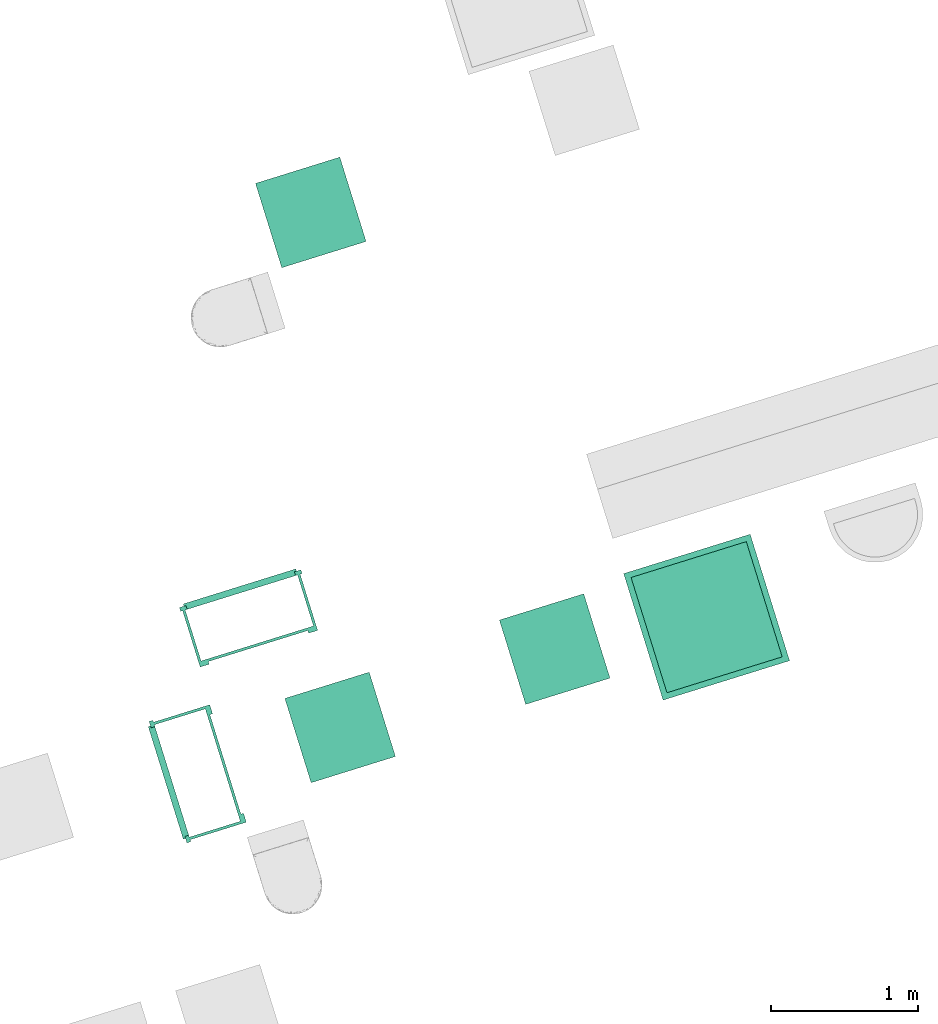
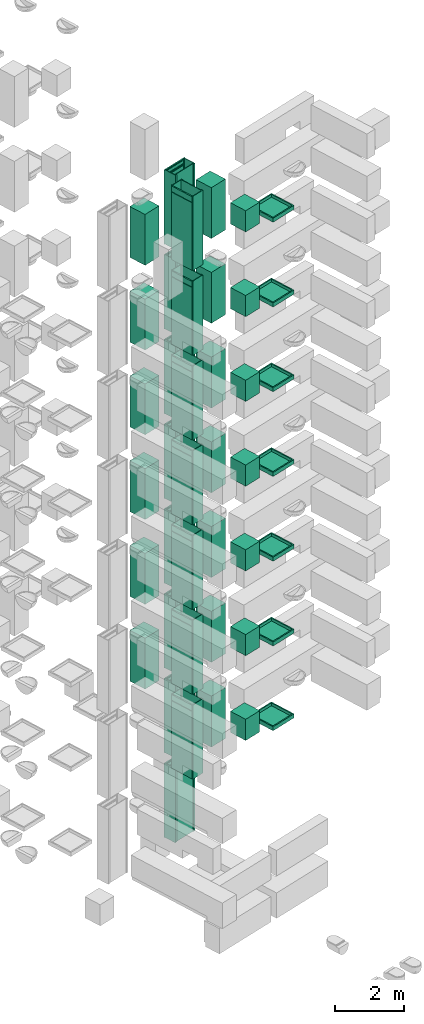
# Not in any storey, part 2 of 17: 15 distribution chamber elements, 13 boilers, 7 electric appliances, 7 sanitary terminals.
"""IFC4 model written with IfcOpenShell, lengths in metres."""

from ifc_helpers import new_model, entity, si_unit, converted_unit, direction, frame, origin, place, context, subcontext, project, indexed_curve, outline, extrude, polygons, source, transform, mapped, material, type_object, type_shapes, element, save


model = new_model("IFC4")

# Units and contexts
model_context = context("Model", 3, precision=1e-05, world=origin(), true_north=direction((6.12323399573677e-17, 1.0)))
body_context = subcontext(model_context, "Body", "Model", "MODEL_VIEW")
ifc_project = project(units=[si_unit("LENGTHUNIT", "METRE"), si_unit("AREAUNIT", "SQUARE_METRE"), converted_unit("PLANEANGLEUNIT", "DEGREE", entity("IfcPlaneAngleMeasure", 0.0174532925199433), si_unit("PLANEANGLEUNIT", "RADIAN"), dimensions=[0, 0, 0, 0, 0, 0, 0]), si_unit("VOLUMEUNIT", "CUBIC_METRE")], contexts=[model_context])

# Distribution chamber elements
ifc_material = material(Name="<Unnamed>")
distribution_chamber_element_type_1 = type_object("IfcDistributionChamberElementType", Name="NLRS_61_GM_UN_Jonka meterkast_gen:Jonka_kast", PredefinedType="METERCHAMBER", material=ifc_material)
shared_shape_1 = source(origin(), body_context, "Body", "SweptSolid", [
    extrude(outline(indexed_curve([(-0.0230000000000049, -0.00925000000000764), (-0.00900000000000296, -0.00925000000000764), (-0.00900000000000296, 0.000749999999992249), (0.00899999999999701, 0.000749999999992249), (0.00899999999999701, -0.00925000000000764), (0.023000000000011, -0.00925000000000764), (0.023000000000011, 0.0177500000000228), (-0.0230000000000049, 0.0177500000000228), (-0.0230000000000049, -0.00925000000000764)], self_intersect=False)), frame((-0.408999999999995, 0.409249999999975, 0.0)), (0.0, 0.0, 1.0), 2.63),
    extrude(outline(indexed_curve([(-0.0230000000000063, -0.00925000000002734), (-0.00900000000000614, -0.00925000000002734), (-0.00900000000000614, 0.00074999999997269), (0.00900000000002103, 0.00074999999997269), (0.00900000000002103, -0.00925000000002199), (0.0229999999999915, -0.00925000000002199), (0.0229999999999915, 0.0177500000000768), (-0.0230000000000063, 0.0177500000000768), (-0.0230000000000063, -0.00925000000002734)], self_intersect=False)), frame((0.409000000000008, 0.409249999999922, 0.0)), (0.0, 0.0, 1.0), 2.63),
    extrude(outline(indexed_curve([(-0.00899999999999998, -0.204999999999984), (0.00899999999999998, -0.204999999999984), (0.00899999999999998, 0.204999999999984), (-0.00899999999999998, 0.204999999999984), (-0.00899999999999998, -0.204999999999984)], self_intersect=False)), frame((-0.408999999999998, 0.204999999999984, 0.0)), (0.0, 0.0, 1.0), 2.63),
    extrude(outline(indexed_curve([(-0.00900000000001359, -0.204999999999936), (0.00900000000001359, -0.204999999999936), (0.00900000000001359, 0.204999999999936), (-0.00900000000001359, 0.204999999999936), (-0.00900000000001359, -0.204999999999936)], self_intersect=False)), frame((0.409000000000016, 0.204999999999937, 0.0)), (0.0, 0.0, 1.0), 2.63),
    extrude(outline(indexed_curve([(-0.00799999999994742, -0.399999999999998), (0.00799999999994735, -0.399999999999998), (0.00799999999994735, 0.399999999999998), (-0.00799999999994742, 0.399999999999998), (-0.00799999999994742, -0.399999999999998)], self_intersect=False)), frame((0.0, 0.434999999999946, 0.00999999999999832), z_axis=(0.0, 0.0, 1.0), x_axis=(0.0, 1.0, 0.0)), (0.0, 0.0, 1.0), 2.39),
    extrude(outline(indexed_curve([(-0.0090000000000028, -0.400000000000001), (0.00899999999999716, -0.400000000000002), (0.0090000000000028, 0.400000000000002), (-0.00899999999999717, 0.400000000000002), (-0.0090000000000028, -0.400000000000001)], self_intersect=False)), frame((0.0, 0.0280000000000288, 0.0), z_axis=(0.0, 0.0, 1.0), x_axis=(0.0, 1.0, 0.0)), (0.0, 0.0, 1.0), 2.63),
    extrude(outline(indexed_curve([(-0.0095, -0.023), (0.0095, -0.023), (0.0095, 0.023), (-0.0095, 0.023), (-0.0095, -0.023)], self_intersect=False)), frame((-0.376999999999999, 0.0095, 0.0), z_axis=(0.0, 0.0, 1.0), x_axis=(0.0, 1.0, 0.0)), (0.0, 0.0, 1.0), 2.63),
    extrude(outline(indexed_curve([(-0.0095, -0.022999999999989), (0.0095, -0.022999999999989), (0.0095, 0.022999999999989), (-0.0095, 0.022999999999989), (-0.0095, -0.022999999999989)], self_intersect=False)), frame((0.377000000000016, 0.00950000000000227, 0.0), z_axis=(0.0, 0.0, 1.0), x_axis=(0.0, 1.0, 0.0)), (0.0, 0.0, 1.0), 2.63),
    extrude(outline(indexed_curve([(-0.00799999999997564, -0.399999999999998), (0.00799999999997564, -0.399999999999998), (0.00799999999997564, 0.399999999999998), (-0.00799999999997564, 0.399999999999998), (-0.00799999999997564, -0.399999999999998)], self_intersect=False)), frame((0.0, 0.434999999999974, 2.41800000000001), z_axis=(0.0, 0.0, 1.0), x_axis=(0.0, 1.0, 0.0)), (0.0, 0.0, 1.0), 0.197000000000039),
    extrude(outline(indexed_curve([(-0.0177500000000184, -0.0230000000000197), (0.00925000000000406, -0.0230000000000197), (0.00925000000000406, -0.00899999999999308), (-0.00074999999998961, -0.00899999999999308), (-0.00074999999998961, 0.00900000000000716), (0.00925000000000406, 0.00900000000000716), (0.00925000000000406, 0.0230000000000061), (-0.0177500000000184, 0.0230000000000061), (-0.0177500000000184, -0.0230000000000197)], self_intersect=False)), frame((-0.386, 0.409249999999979, 2.59200000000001), z_axis=(1.0, 0.0, 0.0), x_axis=(0.0, -1.0, 0.0)), (0.0, 0.0, 1.0), 0.772),
    extrude(outline(indexed_curve([(-0.0177500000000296, -0.0229999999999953), (0.00925000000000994, -0.0229999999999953), (0.00925000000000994, -0.00899999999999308), (-0.000749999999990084, -0.00899999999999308), (-0.000749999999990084, 0.00900000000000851), (0.00925000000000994, 0.00900000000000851), (0.00925000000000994, 0.0229999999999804), (-0.0177500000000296, 0.0229999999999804), (-0.0177500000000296, -0.0229999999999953)], self_intersect=False)), frame((-0.386, 0.40924999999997, 2.40900000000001), z_axis=(1.0, 0.0, 0.0), x_axis=(0.0, -1.0, 0.0)), (0.0, 0.0, 1.0), 0.772),
    extrude(outline(indexed_curve([(-0.0177500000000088, -0.0230000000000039), (0.00925000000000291, -0.0230000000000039), (0.00925000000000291, -0.00899999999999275), (-0.000749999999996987, -0.00899999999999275), (-0.000749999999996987, 0.00899999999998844), (0.00925000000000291, 0.00899999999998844), (0.00925000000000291, 0.0230000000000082), (-0.0177500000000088, 0.0230000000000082), (-0.0177500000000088, -0.0230000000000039)], self_intersect=False)), frame((-0.386, 0.409249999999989, 0.0229999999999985), z_axis=(1.0, 0.0, 0.0), x_axis=(0.0, -1.0, 0.0)), (0.0, 0.0, 1.0), 0.772),
])
type_shapes(distribution_chamber_element_type_1, [shared_shape_1])
placement_1 = place(None, frame((13.1347999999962, 11.9886000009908, 0.0), z_axis=(0.0, 0.0, 1.0), x_axis=(0.954770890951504, 0.297342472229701, 0.0)))
placement_2 = place(placement_1, origin())
placement_3 = place(placement_2, frame((0.0, 0.0, 6.9)))
placement_4 = place(placement_3, origin())
distribution_chamber_element_1_placement = place(placement_4, frame((69.6749999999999, 11.3429999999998, 0.0), z_axis=(0.0, 0.0, 1.0), x_axis=(0.0, 1.0, 0.0)))
element("IfcDistributionChamberElement", 1, at=distribution_chamber_element_1_placement, type_object=distribution_chamber_element_type_1, material=ifc_material, Name="NLRS_61_GM_UN_Jonka meterkast_gen:Jonka_kast", ObjectType="NLRS_61_GM_UN_Jonka meterkast_gen:Jonka_kast", PredefinedType="METERCHAMBER", context=body_context, shape_type="MappedRepresentation", body=[
    mapped(shared_shape_1, transform((0.0, 0.0, 0.0), scale=1.0)),
])
placement_5 = place(placement_2, frame((0.0, 0.0, 9.9)))
placement_6 = place(placement_5, origin())
distribution_chamber_element_2_placement = place(placement_6, frame((69.6749999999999, 11.3429999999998, 0.0), z_axis=(0.0, 0.0, 1.0), x_axis=(0.0, 1.0, 0.0)))
element("IfcDistributionChamberElement", 2, at=distribution_chamber_element_2_placement, type_object=distribution_chamber_element_type_1, material=ifc_material, Name="NLRS_61_GM_UN_Jonka meterkast_gen:Jonka_kast", ObjectType="NLRS_61_GM_UN_Jonka meterkast_gen:Jonka_kast", PredefinedType="METERCHAMBER", context=body_context, shape_type="MappedRepresentation", body=[
    mapped(shared_shape_1, transform((0.0, 0.0, 0.0), scale=1.0)),
])
placement_7 = place(placement_2, frame((0.0, 0.0, 12.9)))
placement_8 = place(placement_7, origin())
distribution_chamber_element_3_placement = place(placement_8, frame((69.6749999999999, 11.3429999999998, 0.0), z_axis=(0.0, 0.0, 1.0), x_axis=(0.0, 1.0, 0.0)))
element("IfcDistributionChamberElement", 3, at=distribution_chamber_element_3_placement, type_object=distribution_chamber_element_type_1, material=ifc_material, Name="NLRS_61_GM_UN_Jonka meterkast_gen:Jonka_kast", ObjectType="NLRS_61_GM_UN_Jonka meterkast_gen:Jonka_kast", PredefinedType="METERCHAMBER", context=body_context, shape_type="MappedRepresentation", body=[
    mapped(shared_shape_1, transform((0.0, 0.0, 0.0), scale=1.0)),
])
placement_9 = place(placement_2, frame((0.0, 0.0, 15.9)))
placement_10 = place(placement_9, origin())
distribution_chamber_element_4_placement = place(placement_10, frame((69.6749999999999, 11.3429999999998, 0.0), z_axis=(0.0, 0.0, 1.0), x_axis=(0.0, 1.0, 0.0)))
element("IfcDistributionChamberElement", 4, at=distribution_chamber_element_4_placement, type_object=distribution_chamber_element_type_1, material=ifc_material, Name="NLRS_61_GM_UN_Jonka meterkast_gen:Jonka_kast", ObjectType="NLRS_61_GM_UN_Jonka meterkast_gen:Jonka_kast", PredefinedType="METERCHAMBER", context=body_context, shape_type="MappedRepresentation", body=[
    mapped(shared_shape_1, transform((0.0, 0.0, 0.0), scale=1.0)),
])
placement_11 = place(placement_2, frame((0.0, 0.0, 18.9)))
placement_12 = place(placement_11, origin())
distribution_chamber_element_5_placement = place(placement_12, frame((69.6749999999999, 11.3429999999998, 0.0), z_axis=(0.0, 0.0, 1.0), x_axis=(0.0, 1.0, 0.0)))
element("IfcDistributionChamberElement", 5, at=distribution_chamber_element_5_placement, type_object=distribution_chamber_element_type_1, material=ifc_material, Name="NLRS_61_GM_UN_Jonka meterkast_gen:Jonka_kast", ObjectType="NLRS_61_GM_UN_Jonka meterkast_gen:Jonka_kast", PredefinedType="METERCHAMBER", context=body_context, shape_type="MappedRepresentation", body=[
    mapped(shared_shape_1, transform((0.0, 0.0, 0.0), scale=1.0)),
])
placement_13 = place(placement_2, frame((0.0, 0.0, 21.9)))
placement_14 = place(placement_13, origin())
distribution_chamber_element_6_placement = place(placement_14, frame((69.6749999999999, 11.3429999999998, 0.0), z_axis=(0.0, 0.0, 1.0), x_axis=(0.0, 1.0, 0.0)))
element("IfcDistributionChamberElement", 6, at=distribution_chamber_element_6_placement, type_object=distribution_chamber_element_type_1, material=ifc_material, Name="NLRS_61_GM_UN_Jonka meterkast_gen:Jonka_kast", ObjectType="NLRS_61_GM_UN_Jonka meterkast_gen:Jonka_kast", PredefinedType="METERCHAMBER", context=body_context, shape_type="MappedRepresentation", body=[
    mapped(shared_shape_1, transform((0.0, 0.0, 0.0), scale=1.0)),
])
placement_15 = place(placement_2, frame((0.0, 0.0, 24.9)))
placement_16 = place(placement_15, origin())
distribution_chamber_element_7_placement = place(placement_16, frame((69.6749999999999, 11.3429999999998, 0.0), z_axis=(0.0, 0.0, 1.0), x_axis=(0.0, 1.0, 0.0)))
element("IfcDistributionChamberElement", 7, at=distribution_chamber_element_7_placement, type_object=distribution_chamber_element_type_1, material=ifc_material, Name="NLRS_61_GM_UN_Jonka meterkast_gen:Jonka_kast", ObjectType="NLRS_61_GM_UN_Jonka meterkast_gen:Jonka_kast", PredefinedType="METERCHAMBER", context=body_context, shape_type="MappedRepresentation", body=[
    mapped(shared_shape_1, transform((0.0, 0.0, 0.0), scale=1.0)),
])

# Boilers
boiler_type = type_object("IfcBoilerType", Name="NLRS_51_ME_WB_warmtepomp_gen:generiek", PredefinedType="NOTDEFINED", material=ifc_material)
shared_shape_2 = source(origin(), body_context, "Body", "SweptSolid", [
    extrude(outline(indexed_curve([(-0.300000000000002, -0.299999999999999), (0.300000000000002, -0.299999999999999), (0.300000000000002, 0.299999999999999), (-0.300000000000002, 0.299999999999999), (-0.300000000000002, -0.299999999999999)], self_intersect=False)), frame((0.124999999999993, -0.350000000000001, 0.6), z_axis=(0.0, 0.0, 1.0), x_axis=(0.0, 1.0, 0.0)), (0.0, 0.0, 1.0), 1.8),
])
type_shapes(boiler_type, [shared_shape_2])
placement_17 = place(placement_3, origin())
boiler_1_placement = place(placement_17, frame((70.1249999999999, 11.2249999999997, 0.0), z_axis=(0.0, 0.0, 1.0), x_axis=(0.0, 1.0, 0.0)))
element("IfcBoiler", 8, at=boiler_1_placement, type_object=boiler_type, material=ifc_material, Name="NLRS_51_ME_WB_warmtepomp_gen:generiek", ObjectType="NLRS_51_ME_WB_warmtepomp_gen:generiek", PredefinedType="NOTDEFINED", context=body_context, shape_type="MappedRepresentation", body=[
    mapped(shared_shape_2, transform((0.0, 0.0, 0.0), scale=1.0)),
])
placement_18 = place(placement_5, origin())
boiler_2_placement = place(placement_18, frame((70.1249999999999, 11.2249999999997, 0.0), z_axis=(0.0, 0.0, 1.0), x_axis=(0.0, 1.0, 0.0)))
element("IfcBoiler", 9, at=boiler_2_placement, type_object=boiler_type, material=ifc_material, Name="NLRS_51_ME_WB_warmtepomp_gen:generiek", ObjectType="NLRS_51_ME_WB_warmtepomp_gen:generiek", PredefinedType="NOTDEFINED", context=body_context, shape_type="MappedRepresentation", body=[
    mapped(shared_shape_2, transform((0.0, 0.0, 0.0), scale=1.0)),
])
placement_19 = place(placement_7, origin())
boiler_3_placement = place(placement_19, frame((70.1249999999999, 11.2249999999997, 0.0), z_axis=(0.0, 0.0, 1.0), x_axis=(0.0, 1.0, 0.0)))
element("IfcBoiler", 10, at=boiler_3_placement, type_object=boiler_type, material=ifc_material, Name="NLRS_51_ME_WB_warmtepomp_gen:generiek", ObjectType="NLRS_51_ME_WB_warmtepomp_gen:generiek", PredefinedType="NOTDEFINED", context=body_context, shape_type="MappedRepresentation", body=[
    mapped(shared_shape_2, transform((0.0, 0.0, 0.0), scale=1.0)),
])
placement_20 = place(placement_9, origin())
boiler_4_placement = place(placement_20, frame((70.1249999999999, 11.2249999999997, 0.0), z_axis=(0.0, 0.0, 1.0), x_axis=(0.0, 1.0, 0.0)))
element("IfcBoiler", 11, at=boiler_4_placement, type_object=boiler_type, material=ifc_material, Name="NLRS_51_ME_WB_warmtepomp_gen:generiek", ObjectType="NLRS_51_ME_WB_warmtepomp_gen:generiek", PredefinedType="NOTDEFINED", context=body_context, shape_type="MappedRepresentation", body=[
    mapped(shared_shape_2, transform((0.0, 0.0, 0.0), scale=1.0)),
])
placement_21 = place(placement_11, origin())
boiler_5_placement = place(placement_21, frame((70.1249999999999, 11.2249999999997, 0.0), z_axis=(0.0, 0.0, 1.0), x_axis=(0.0, 1.0, 0.0)))
element("IfcBoiler", 12, at=boiler_5_placement, type_object=boiler_type, material=ifc_material, Name="NLRS_51_ME_WB_warmtepomp_gen:generiek", ObjectType="NLRS_51_ME_WB_warmtepomp_gen:generiek", PredefinedType="NOTDEFINED", context=body_context, shape_type="MappedRepresentation", body=[
    mapped(shared_shape_2, transform((0.0, 0.0, 0.0), scale=1.0)),
])
placement_22 = place(placement_13, origin())
boiler_6_placement = place(placement_22, frame((70.1249999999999, 11.2249999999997, 0.0), z_axis=(0.0, 0.0, 1.0), x_axis=(0.0, 1.0, 0.0)))
element("IfcBoiler", 13, at=boiler_6_placement, type_object=boiler_type, material=ifc_material, Name="NLRS_51_ME_WB_warmtepomp_gen:generiek", ObjectType="NLRS_51_ME_WB_warmtepomp_gen:generiek", PredefinedType="NOTDEFINED", context=body_context, shape_type="MappedRepresentation", body=[
    mapped(shared_shape_2, transform((0.0, 0.0, 0.0), scale=1.0)),
])
placement_23 = place(placement_15, origin())
boiler_7_placement = place(placement_23, frame((70.1249999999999, 11.2249999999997, 0.0), z_axis=(0.0, 0.0, 1.0), x_axis=(0.0, 1.0, 0.0)))
element("IfcBoiler", 14, at=boiler_7_placement, type_object=boiler_type, material=ifc_material, Name="NLRS_51_ME_WB_warmtepomp_gen:generiek", ObjectType="NLRS_51_ME_WB_warmtepomp_gen:generiek", PredefinedType="NOTDEFINED", context=body_context, shape_type="MappedRepresentation", body=[
    mapped(shared_shape_2, transform((0.0, 0.0, 0.0), scale=1.0)),
])
placement_24 = place(placement_3, origin())
boiler_8_placement = place(placement_24, frame((70.9749999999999, 14.6249999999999, 0.0), z_axis=(0.0, 0.0, 1.0), x_axis=(0.0, 1.0, 0.0)))
element("IfcBoiler", 15, at=boiler_8_placement, type_object=boiler_type, material=ifc_material, Name="NLRS_51_ME_WB_warmtepomp_gen:generiek", ObjectType="NLRS_51_ME_WB_warmtepomp_gen:generiek", PredefinedType="NOTDEFINED", context=body_context, shape_type="MappedRepresentation", body=[
    mapped(shared_shape_2, transform((0.0, 0.0, 0.0), scale=1.0)),
])
placement_25 = place(placement_5, origin())
boiler_9_placement = place(placement_25, frame((70.9749999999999, 14.6249999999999, 0.0), z_axis=(0.0, 0.0, 1.0), x_axis=(0.0, 1.0, 0.0)))
element("IfcBoiler", 16, at=boiler_9_placement, type_object=boiler_type, material=ifc_material, Name="NLRS_51_ME_WB_warmtepomp_gen:generiek", ObjectType="NLRS_51_ME_WB_warmtepomp_gen:generiek", PredefinedType="NOTDEFINED", context=body_context, shape_type="MappedRepresentation", body=[
    mapped(shared_shape_2, transform((0.0, 0.0, 0.0), scale=1.0)),
])
placement_26 = place(placement_7, origin())
boiler_10_placement = place(placement_26, frame((70.9749999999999, 14.6249999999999, 0.0), z_axis=(0.0, 0.0, 1.0), x_axis=(0.0, 1.0, 0.0)))
element("IfcBoiler", 17, at=boiler_10_placement, type_object=boiler_type, material=ifc_material, Name="NLRS_51_ME_WB_warmtepomp_gen:generiek", ObjectType="NLRS_51_ME_WB_warmtepomp_gen:generiek", PredefinedType="NOTDEFINED", context=body_context, shape_type="MappedRepresentation", body=[
    mapped(shared_shape_2, transform((0.0, 0.0, 0.0), scale=1.0)),
])
placement_27 = place(placement_9, origin())
boiler_11_placement = place(placement_27, frame((70.9749999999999, 14.6249999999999, 0.0), z_axis=(0.0, 0.0, 1.0), x_axis=(0.0, 1.0, 0.0)))
element("IfcBoiler", 18, at=boiler_11_placement, type_object=boiler_type, material=ifc_material, Name="NLRS_51_ME_WB_warmtepomp_gen:generiek", ObjectType="NLRS_51_ME_WB_warmtepomp_gen:generiek", PredefinedType="NOTDEFINED", context=body_context, shape_type="MappedRepresentation", body=[
    mapped(shared_shape_2, transform((0.0, 0.0, 0.0), scale=1.0)),
])
placement_28 = place(placement_11, origin())
boiler_12_placement = place(placement_28, frame((70.9749999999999, 14.6249999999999, 0.0), z_axis=(0.0, 0.0, 1.0), x_axis=(0.0, 1.0, 0.0)))
element("IfcBoiler", 19, at=boiler_12_placement, type_object=boiler_type, material=ifc_material, Name="NLRS_51_ME_WB_warmtepomp_gen:generiek", ObjectType="NLRS_51_ME_WB_warmtepomp_gen:generiek", PredefinedType="NOTDEFINED", context=body_context, shape_type="MappedRepresentation", body=[
    mapped(shared_shape_2, transform((0.0, 0.0, 0.0), scale=1.0)),
])
placement_29 = place(placement_13, origin())
boiler_13_placement = place(placement_29, frame((70.9749999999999, 14.6249999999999, 0.0), z_axis=(0.0, 0.0, 1.0), x_axis=(0.0, 1.0, 0.0)))
element("IfcBoiler", 20, at=boiler_13_placement, type_object=boiler_type, material=ifc_material, Name="NLRS_51_ME_WB_warmtepomp_gen:generiek", ObjectType="NLRS_51_ME_WB_warmtepomp_gen:generiek", PredefinedType="NOTDEFINED", context=body_context, shape_type="MappedRepresentation", body=[
    mapped(shared_shape_2, transform((0.0, 0.0, 0.0), scale=1.0)),
])

# Sanitary terminals
sanitary_terminal_type = type_object("IfcSanitaryTerminalType", Name="NLRS_74_PF_UN_douche_gen:douchebak 900x900mm", PredefinedType="NOTDEFINED", material=ifc_material)
shared_shape_3 = source(origin(), body_context, "Body", "Tessellation", [
    polygons([(1.65924045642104, -0.403499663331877, -6.76), (1.65924045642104, 0.496500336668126, -6.76), (0.759240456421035, 0.496500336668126, -6.76), (0.759240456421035, -0.403499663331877, -6.76), (0.799240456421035, -0.36349966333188, -6.76), (0.799240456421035, 0.456500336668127, -6.76), (1.61924045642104, 0.456500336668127, -6.76), (1.61924045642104, -0.36349966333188, -6.76), (1.65924045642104, -0.403499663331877, -6.9), (0.759240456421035, -0.403499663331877, -6.9), (0.759240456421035, 0.496500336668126, -6.9), (1.65924045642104, 0.496500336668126, -6.9), (1.61924045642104, -0.36349966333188, -6.86), (1.61924045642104, 0.456500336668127, -6.86), (0.799240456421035, 0.456500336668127, -6.86), (0.799240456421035, -0.36349966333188, -6.86)], [[[1, 2, 3, 4], [5, 6, 7, 8]], [[9, 10, 11, 12]], [[4, 10, 9, 1]], [[3, 11, 10, 4]], [[2, 12, 11, 3]], [[1, 9, 12, 2]], [[13, 14, 15, 16]], [[16, 5, 8, 13]], [[15, 6, 5, 16]], [[14, 7, 6, 15]], [[13, 8, 7, 14]]], closed=True),
])
type_shapes(sanitary_terminal_type, [shared_shape_3])
placement_30 = place(placement_3, origin())
sanitary_terminal_1_placement = place(placement_30, frame((73.1215003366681, 10.1157595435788, 6.9), z_axis=(0.0, 0.0, 1.0), x_axis=(0.0, 1.0, 0.0)))
element("IfcSanitaryTerminal", 21, at=sanitary_terminal_1_placement, type_object=sanitary_terminal_type, material=ifc_material, Name="NLRS_74_PF_UN_douche_gen:douchebak 900x900mm", ObjectType="NLRS_74_PF_UN_douche_gen:douchebak 900x900mm", PredefinedType="NOTDEFINED", context=body_context, shape_type="MappedRepresentation", body=[
    mapped(shared_shape_3, transform((0.0, 0.0, 0.0), scale=1.0)),
])
placement_31 = place(placement_5, origin())
sanitary_terminal_2_placement = place(placement_31, frame((73.1215003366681, 10.1157595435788, 6.9), z_axis=(0.0, 0.0, 1.0), x_axis=(0.0, 1.0, 0.0)))
element("IfcSanitaryTerminal", 22, at=sanitary_terminal_2_placement, type_object=sanitary_terminal_type, material=ifc_material, Name="NLRS_74_PF_UN_douche_gen:douchebak 900x900mm", ObjectType="NLRS_74_PF_UN_douche_gen:douchebak 900x900mm", PredefinedType="NOTDEFINED", context=body_context, shape_type="MappedRepresentation", body=[
    mapped(shared_shape_3, transform((0.0, 0.0, 0.0), scale=1.0)),
])
placement_32 = place(placement_7, origin())
sanitary_terminal_3_placement = place(placement_32, frame((73.1215003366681, 10.1157595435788, 6.9), z_axis=(0.0, 0.0, 1.0), x_axis=(0.0, 1.0, 0.0)))
element("IfcSanitaryTerminal", 23, at=sanitary_terminal_3_placement, type_object=sanitary_terminal_type, material=ifc_material, Name="NLRS_74_PF_UN_douche_gen:douchebak 900x900mm", ObjectType="NLRS_74_PF_UN_douche_gen:douchebak 900x900mm", PredefinedType="NOTDEFINED", context=body_context, shape_type="MappedRepresentation", body=[
    mapped(shared_shape_3, transform((0.0, 0.0, 0.0), scale=1.0)),
])
placement_33 = place(placement_9, origin())
sanitary_terminal_4_placement = place(placement_33, frame((73.1215003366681, 10.1157595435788, 6.9), z_axis=(0.0, 0.0, 1.0), x_axis=(0.0, 1.0, 0.0)))
element("IfcSanitaryTerminal", 24, at=sanitary_terminal_4_placement, type_object=sanitary_terminal_type, material=ifc_material, Name="NLRS_74_PF_UN_douche_gen:douchebak 900x900mm", ObjectType="NLRS_74_PF_UN_douche_gen:douchebak 900x900mm", PredefinedType="NOTDEFINED", context=body_context, shape_type="MappedRepresentation", body=[
    mapped(shared_shape_3, transform((0.0, 0.0, 0.0), scale=1.0)),
])
placement_34 = place(placement_11, origin())
sanitary_terminal_5_placement = place(placement_34, frame((73.1215003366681, 10.1157595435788, 6.9), z_axis=(0.0, 0.0, 1.0), x_axis=(0.0, 1.0, 0.0)))
element("IfcSanitaryTerminal", 25, at=sanitary_terminal_5_placement, type_object=sanitary_terminal_type, material=ifc_material, Name="NLRS_74_PF_UN_douche_gen:douchebak 900x900mm", ObjectType="NLRS_74_PF_UN_douche_gen:douchebak 900x900mm", PredefinedType="NOTDEFINED", context=body_context, shape_type="MappedRepresentation", body=[
    mapped(shared_shape_3, transform((0.0, 0.0, 0.0), scale=1.0)),
])
placement_35 = place(placement_13, origin())
sanitary_terminal_6_placement = place(placement_35, frame((73.1215003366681, 10.1157595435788, 6.9), z_axis=(0.0, 0.0, 1.0), x_axis=(0.0, 1.0, 0.0)))
element("IfcSanitaryTerminal", 26, at=sanitary_terminal_6_placement, type_object=sanitary_terminal_type, material=ifc_material, Name="NLRS_74_PF_UN_douche_gen:douchebak 900x900mm", ObjectType="NLRS_74_PF_UN_douche_gen:douchebak 900x900mm", PredefinedType="NOTDEFINED", context=body_context, shape_type="MappedRepresentation", body=[
    mapped(shared_shape_3, transform((0.0, 0.0, 0.0), scale=1.0)),
])
placement_36 = place(placement_15, origin())
sanitary_terminal_7_placement = place(placement_36, frame((73.1215003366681, 10.1157595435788, 6.9), z_axis=(0.0, 0.0, 1.0), x_axis=(0.0, 1.0, 0.0)))
element("IfcSanitaryTerminal", 27, at=sanitary_terminal_7_placement, type_object=sanitary_terminal_type, material=ifc_material, Name="NLRS_74_PF_UN_douche_gen:douchebak 900x900mm", ObjectType="NLRS_74_PF_UN_douche_gen:douchebak 900x900mm", PredefinedType="NOTDEFINED", context=body_context, shape_type="MappedRepresentation", body=[
    mapped(shared_shape_3, transform((0.0, 0.0, 0.0), scale=1.0)),
])

# Electric appliances
electric_appliance_type = type_object("IfcElectricApplianceType", Name="NLRS_85_SE_UN_opstelplaats wasmachine_gen:wasdroger", PredefinedType="TUMBLEDRYER", material=ifc_material)
shared_shape_4 = source(origin(), body_context, "Body", "SweptSolid", [
    extrude(outline(indexed_curve([(-0.3, -0.299999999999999), (0.3, -0.299999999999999), (0.3, 0.299999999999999), (-0.3, 0.299999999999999), (-0.3, -0.299999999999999)], self_intersect=False)), frame((0.0, -0.349999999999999, 0.0), z_axis=(0.0, 0.0, 1.0), x_axis=(-1.0, 0.0, 0.0)), (0.0, 0.0, 1.0), 0.75026866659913),
])
type_shapes(electric_appliance_type, [shared_shape_4])
electric_appliance_1_placement = place(placement_17, frame((72.025, 11.7749999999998, 0.0)))
element("IfcElectricAppliance", 28, at=electric_appliance_1_placement, type_object=electric_appliance_type, material=ifc_material, Name="NLRS_85_SE_UN_opstelplaats wasmachine_gen:wasdroger", ObjectType="NLRS_85_SE_UN_opstelplaats wasmachine_gen:wasdroger", PredefinedType="TUMBLEDRYER", context=body_context, shape_type="MappedRepresentation", body=[
    mapped(shared_shape_4, transform((0.0, 0.0, 0.0), scale=1.0)),
])
electric_appliance_2_placement = place(placement_18, frame((72.025, 11.7749999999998, 0.0)))
element("IfcElectricAppliance", 29, at=electric_appliance_2_placement, type_object=electric_appliance_type, material=ifc_material, Name="NLRS_85_SE_UN_opstelplaats wasmachine_gen:wasdroger", ObjectType="NLRS_85_SE_UN_opstelplaats wasmachine_gen:wasdroger", PredefinedType="TUMBLEDRYER", context=body_context, shape_type="MappedRepresentation", body=[
    mapped(shared_shape_4, transform((0.0, 0.0, 0.0), scale=1.0)),
])
electric_appliance_3_placement = place(placement_19, frame((72.025, 11.7749999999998, 0.0)))
element("IfcElectricAppliance", 30, at=electric_appliance_3_placement, type_object=electric_appliance_type, material=ifc_material, Name="NLRS_85_SE_UN_opstelplaats wasmachine_gen:wasdroger", ObjectType="NLRS_85_SE_UN_opstelplaats wasmachine_gen:wasdroger", PredefinedType="TUMBLEDRYER", context=body_context, shape_type="MappedRepresentation", body=[
    mapped(shared_shape_4, transform((0.0, 0.0, 0.0), scale=1.0)),
])
electric_appliance_4_placement = place(placement_20, frame((72.025, 11.7749999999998, 0.0)))
element("IfcElectricAppliance", 31, at=electric_appliance_4_placement, type_object=electric_appliance_type, material=ifc_material, Name="NLRS_85_SE_UN_opstelplaats wasmachine_gen:wasdroger", ObjectType="NLRS_85_SE_UN_opstelplaats wasmachine_gen:wasdroger", PredefinedType="TUMBLEDRYER", context=body_context, shape_type="MappedRepresentation", body=[
    mapped(shared_shape_4, transform((0.0, 0.0, 0.0), scale=1.0)),
])
electric_appliance_5_placement = place(placement_21, frame((72.025, 11.7749999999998, 0.0)))
element("IfcElectricAppliance", 32, at=electric_appliance_5_placement, type_object=electric_appliance_type, material=ifc_material, Name="NLRS_85_SE_UN_opstelplaats wasmachine_gen:wasdroger", ObjectType="NLRS_85_SE_UN_opstelplaats wasmachine_gen:wasdroger", PredefinedType="TUMBLEDRYER", context=body_context, shape_type="MappedRepresentation", body=[
    mapped(shared_shape_4, transform((0.0, 0.0, 0.0), scale=1.0)),
])
electric_appliance_6_placement = place(placement_22, frame((72.025, 11.7749999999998, 0.0)))
element("IfcElectricAppliance", 33, at=electric_appliance_6_placement, type_object=electric_appliance_type, material=ifc_material, Name="NLRS_85_SE_UN_opstelplaats wasmachine_gen:wasdroger", ObjectType="NLRS_85_SE_UN_opstelplaats wasmachine_gen:wasdroger", PredefinedType="TUMBLEDRYER", context=body_context, shape_type="MappedRepresentation", body=[
    mapped(shared_shape_4, transform((0.0, 0.0, 0.0), scale=1.0)),
])
electric_appliance_7_placement = place(placement_23, frame((72.025, 11.7749999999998, 0.0)))
element("IfcElectricAppliance", 34, at=electric_appliance_7_placement, type_object=electric_appliance_type, material=ifc_material, Name="NLRS_85_SE_UN_opstelplaats wasmachine_gen:wasdroger", ObjectType="NLRS_85_SE_UN_opstelplaats wasmachine_gen:wasdroger", PredefinedType="TUMBLEDRYER", context=body_context, shape_type="MappedRepresentation", body=[
    mapped(shared_shape_4, transform((0.0, 0.0, 0.0), scale=1.0)),
])

# Distribution chamber elements
distribution_chamber_element_type_2 = type_object("IfcDistributionChamberElementType", Name="NLRS_61_GM_UN_Jonka meterkast_gen:Jonka_kast", PredefinedType="METERCHAMBER", material=ifc_material)
shared_shape_5 = source(origin(), body_context, "Body", "SweptSolid", [
    extrude(outline(indexed_curve([(-0.00925000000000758, -0.0230000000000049), (0.0177500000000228, -0.0230000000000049), (0.0177500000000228, 0.0230000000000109), (-0.00925000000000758, 0.0230000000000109), (-0.00925000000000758, 0.00899999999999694), (0.000749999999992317, 0.00899999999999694), (0.000749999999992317, -0.00900000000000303), (-0.00925000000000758, -0.00900000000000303), (-0.00925000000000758, -0.0230000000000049)], self_intersect=False)), frame((-0.408999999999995, -0.409249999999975, 0.0), z_axis=(0.0, 0.0, 1.0), x_axis=(0.0, -1.0, 0.0)), (0.0, 0.0, 1.0), 2.63),
    extrude(outline(indexed_curve([(-0.0092500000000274, -0.0230000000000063), (0.0177500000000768, -0.0230000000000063), (0.0177500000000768, 0.0229999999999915), (-0.00925000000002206, 0.0229999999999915), (-0.00925000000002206, 0.00900000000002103), (0.000749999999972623, 0.00900000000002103), (0.000749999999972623, -0.00900000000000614), (-0.0092500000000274, -0.00900000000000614), (-0.0092500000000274, -0.0230000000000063)], self_intersect=False)), frame((0.409000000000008, -0.409249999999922, 0.0), z_axis=(0.0, 0.0, 1.0), x_axis=(0.0, -1.0, 0.0)), (0.0, 0.0, 1.0), 2.63),
    extrude(outline(indexed_curve([(-0.204999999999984, -0.00899999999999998), (0.204999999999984, -0.00899999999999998), (0.204999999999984, 0.00899999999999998), (-0.204999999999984, 0.00899999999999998), (-0.204999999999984, -0.00899999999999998)], self_intersect=False)), frame((-0.408999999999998, -0.204999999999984, 0.0), z_axis=(0.0, 0.0, 1.0), x_axis=(0.0, -1.0, 0.0)), (0.0, 0.0, 1.0), 2.63),
    extrude(outline(indexed_curve([(-0.204999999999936, -0.00900000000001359), (0.204999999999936, -0.00900000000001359), (0.204999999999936, 0.00900000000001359), (-0.204999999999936, 0.00900000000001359), (-0.204999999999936, -0.00900000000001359)], self_intersect=False)), frame((0.409000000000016, -0.204999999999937, 0.0), z_axis=(0.0, 0.0, 1.0), x_axis=(0.0, -1.0, 0.0)), (0.0, 0.0, 1.0), 2.63),
    extrude(outline(indexed_curve([(-0.399999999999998, -0.00799999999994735), (0.399999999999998, -0.00799999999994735), (0.399999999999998, 0.00799999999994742), (-0.399999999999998, 0.00799999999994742), (-0.399999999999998, -0.00799999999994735)], self_intersect=False)), frame((0.0, -0.434999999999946, 0.00999999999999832), z_axis=(0.0, 0.0, 1.0), x_axis=(-1.0, 0.0, 0.0)), (0.0, 0.0, 1.0), 2.39),
    extrude(outline(indexed_curve([(-0.400000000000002, -0.00899999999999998), (0.400000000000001, -0.00899999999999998), (0.400000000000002, 0.00899999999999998), (-0.400000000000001, 0.00899999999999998), (-0.400000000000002, -0.00899999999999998)], self_intersect=False)), frame((0.0, -0.0280000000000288, 0.0), z_axis=(0.0, 0.0, 1.0), x_axis=(-1.0, 0.0, 0.0)), (0.0, 0.0, 1.0), 2.63),
    extrude(outline(indexed_curve([(-0.023, -0.0095), (0.023, -0.0095), (0.023, 0.0095), (-0.023, 0.0095), (-0.023, -0.0095)], self_intersect=False)), frame((-0.376999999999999, -0.0095, 0.0), z_axis=(0.0, 0.0, 1.0), x_axis=(-1.0, 0.0, 0.0)), (0.0, 0.0, 1.0), 2.63),
    extrude(outline(indexed_curve([(-0.022999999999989, -0.0095), (0.022999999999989, -0.0095), (0.022999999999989, 0.0095), (-0.022999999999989, 0.0095), (-0.022999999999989, -0.0095)], self_intersect=False)), frame((0.377000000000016, -0.00950000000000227, 0.0), z_axis=(0.0, 0.0, 1.0), x_axis=(-1.0, 0.0, 0.0)), (0.0, 0.0, 1.0), 2.63),
    extrude(outline(indexed_curve([(-0.399999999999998, -0.00799999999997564), (0.399999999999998, -0.00799999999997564), (0.399999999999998, 0.00799999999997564), (-0.399999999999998, 0.00799999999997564), (-0.399999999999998, -0.00799999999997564)], self_intersect=False)), frame((0.0, -0.434999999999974, 2.41800000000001), z_axis=(0.0, 0.0, 1.0), x_axis=(-1.0, 0.0, 0.0)), (0.0, 0.0, 1.0), 0.197000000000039),
    extrude(outline(indexed_curve([(-0.0230000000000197, -0.0177500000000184), (0.0230000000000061, -0.0177500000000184), (0.0230000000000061, 0.00925000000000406), (0.00900000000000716, 0.00925000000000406), (0.00900000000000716, -0.00074999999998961), (-0.00899999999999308, -0.00074999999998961), (-0.00899999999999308, 0.00925000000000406), (-0.0230000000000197, 0.00925000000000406), (-0.0230000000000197, -0.0177500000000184)], self_intersect=False)), frame((-0.386, -0.409249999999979, 2.59200000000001), z_axis=(1.0, 0.0, 0.0), x_axis=(0.0, 0.0, -1.0)), (0.0, 0.0, 1.0), 0.772),
    extrude(outline(indexed_curve([(-0.0229999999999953, -0.0177500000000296), (0.0229999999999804, -0.0177500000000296), (0.0229999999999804, 0.00925000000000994), (0.00900000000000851, 0.00925000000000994), (0.00900000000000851, -0.000749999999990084), (-0.00899999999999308, -0.000749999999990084), (-0.00899999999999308, 0.00925000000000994), (-0.0229999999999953, 0.00925000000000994), (-0.0229999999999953, -0.0177500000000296)], self_intersect=False)), frame((-0.386, -0.40924999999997, 2.40900000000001), z_axis=(1.0, 0.0, 0.0), x_axis=(0.0, 0.0, -1.0)), (0.0, 0.0, 1.0), 0.772),
    extrude(outline(indexed_curve([(-0.0230000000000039, -0.0177500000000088), (0.0230000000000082, -0.0177500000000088), (0.0230000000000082, 0.00925000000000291), (0.00899999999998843, 0.00925000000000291), (0.00899999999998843, -0.000749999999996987), (-0.00899999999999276, -0.000749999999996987), (-0.00899999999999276, 0.00925000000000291), (-0.0230000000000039, 0.00925000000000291), (-0.0230000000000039, -0.0177500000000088)], self_intersect=False)), frame((-0.386, -0.409249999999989, 0.0229999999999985), z_axis=(1.0, 0.0, 0.0), x_axis=(0.0, 0.0, -1.0)), (0.0, 0.0, 1.0), 0.772),
])
type_shapes(distribution_chamber_element_type_2, [shared_shape_5])
placement_37 = place(placement_3, origin())
distribution_chamber_element_8_placement = place(placement_37, frame((70.1069999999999, 12.0250000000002, 0.0), z_axis=(0.0, 0.0, 1.0), x_axis=(-1.0, 0.0, 0.0)))
element("IfcDistributionChamberElement", 35, at=distribution_chamber_element_8_placement, type_object=distribution_chamber_element_type_2, material=ifc_material, Name="NLRS_61_GM_UN_Jonka meterkast_gen:Jonka_kast", ObjectType="NLRS_61_GM_UN_Jonka meterkast_gen:Jonka_kast", PredefinedType="METERCHAMBER", context=body_context, shape_type="MappedRepresentation", body=[
    mapped(shared_shape_5, transform((0.0, 0.0, 0.0), scale=1.0)),
])
placement_38 = place(placement_5, origin())
distribution_chamber_element_9_placement = place(placement_38, frame((70.1069999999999, 12.0250000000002, 0.0), z_axis=(0.0, 0.0, 1.0), x_axis=(-1.0, 0.0, 0.0)))
element("IfcDistributionChamberElement", 36, at=distribution_chamber_element_9_placement, type_object=distribution_chamber_element_type_2, material=ifc_material, Name="NLRS_61_GM_UN_Jonka meterkast_gen:Jonka_kast", ObjectType="NLRS_61_GM_UN_Jonka meterkast_gen:Jonka_kast", PredefinedType="METERCHAMBER", context=body_context, shape_type="MappedRepresentation", body=[
    mapped(shared_shape_5, transform((0.0, 0.0, 0.0), scale=1.0)),
])
placement_39 = place(placement_7, origin())
distribution_chamber_element_10_placement = place(placement_39, frame((70.1069999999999, 12.0250000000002, 0.0), z_axis=(0.0, 0.0, 1.0), x_axis=(-1.0, 0.0, 0.0)))
element("IfcDistributionChamberElement", 37, at=distribution_chamber_element_10_placement, type_object=distribution_chamber_element_type_2, material=ifc_material, Name="NLRS_61_GM_UN_Jonka meterkast_gen:Jonka_kast", ObjectType="NLRS_61_GM_UN_Jonka meterkast_gen:Jonka_kast", PredefinedType="METERCHAMBER", context=body_context, shape_type="MappedRepresentation", body=[
    mapped(shared_shape_5, transform((0.0, 0.0, 0.0), scale=1.0)),
])
placement_40 = place(placement_9, origin())
distribution_chamber_element_11_placement = place(placement_40, frame((70.1069999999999, 12.0250000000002, 0.0), z_axis=(0.0, 0.0, 1.0), x_axis=(-1.0, 0.0, 0.0)))
element("IfcDistributionChamberElement", 38, at=distribution_chamber_element_11_placement, type_object=distribution_chamber_element_type_2, material=ifc_material, Name="NLRS_61_GM_UN_Jonka meterkast_gen:Jonka_kast", ObjectType="NLRS_61_GM_UN_Jonka meterkast_gen:Jonka_kast", PredefinedType="METERCHAMBER", context=body_context, shape_type="MappedRepresentation", body=[
    mapped(shared_shape_5, transform((0.0, 0.0, 0.0), scale=1.0)),
])
placement_41 = place(placement_11, origin())
distribution_chamber_element_12_placement = place(placement_41, frame((70.1069999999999, 12.0250000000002, 0.0), z_axis=(0.0, 0.0, 1.0), x_axis=(-1.0, 0.0, 0.0)))
element("IfcDistributionChamberElement", 39, at=distribution_chamber_element_12_placement, type_object=distribution_chamber_element_type_2, material=ifc_material, Name="NLRS_61_GM_UN_Jonka meterkast_gen:Jonka_kast", ObjectType="NLRS_61_GM_UN_Jonka meterkast_gen:Jonka_kast", PredefinedType="METERCHAMBER", context=body_context, shape_type="MappedRepresentation", body=[
    mapped(shared_shape_5, transform((0.0, 0.0, 0.0), scale=1.0)),
])
placement_42 = place(placement_13, origin())
distribution_chamber_element_13_placement = place(placement_42, frame((70.1069999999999, 12.0250000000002, 0.0), z_axis=(0.0, 0.0, 1.0), x_axis=(-1.0, 0.0, 0.0)))
element("IfcDistributionChamberElement", 40, at=distribution_chamber_element_13_placement, type_object=distribution_chamber_element_type_2, material=ifc_material, Name="NLRS_61_GM_UN_Jonka meterkast_gen:Jonka_kast", ObjectType="NLRS_61_GM_UN_Jonka meterkast_gen:Jonka_kast", PredefinedType="METERCHAMBER", context=body_context, shape_type="MappedRepresentation", body=[
    mapped(shared_shape_5, transform((0.0, 0.0, 0.0), scale=1.0)),
])
placement_43 = place(placement_15, origin())
distribution_chamber_element_14_placement = place(placement_43, frame((70.1069999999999, 12.0250000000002, 0.0), z_axis=(0.0, 0.0, 1.0), x_axis=(-1.0, 0.0, 0.0)))
element("IfcDistributionChamberElement", 41, at=distribution_chamber_element_14_placement, type_object=distribution_chamber_element_type_2, material=ifc_material, Name="NLRS_61_GM_UN_Jonka meterkast_gen:Jonka_kast", ObjectType="NLRS_61_GM_UN_Jonka meterkast_gen:Jonka_kast", PredefinedType="METERCHAMBER", context=body_context, shape_type="MappedRepresentation", body=[
    mapped(shared_shape_5, transform((0.0, 0.0, 0.0), scale=1.0)),
])
placement_44 = place(placement_2, frame((0.0, 0.0, 3.9)))
placement_45 = place(placement_44, origin())
distribution_chamber_element_15_placement = place(placement_45, frame((70.1069999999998, 12.0250000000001, 0.0), z_axis=(0.0, 0.0, 1.0), x_axis=(-1.0, 0.0, 0.0)))
element("IfcDistributionChamberElement", 42, at=distribution_chamber_element_15_placement, type_object=distribution_chamber_element_type_2, material=ifc_material, Name="NLRS_61_GM_UN_Jonka meterkast_gen:Jonka_kast", ObjectType="NLRS_61_GM_UN_Jonka meterkast_gen:Jonka_kast", PredefinedType="METERCHAMBER", context=body_context, shape_type="MappedRepresentation", body=[
    mapped(shared_shape_5, transform((0.0, 0.0, 0.0), scale=1.0)),
])

save(model, "model.ifc")
